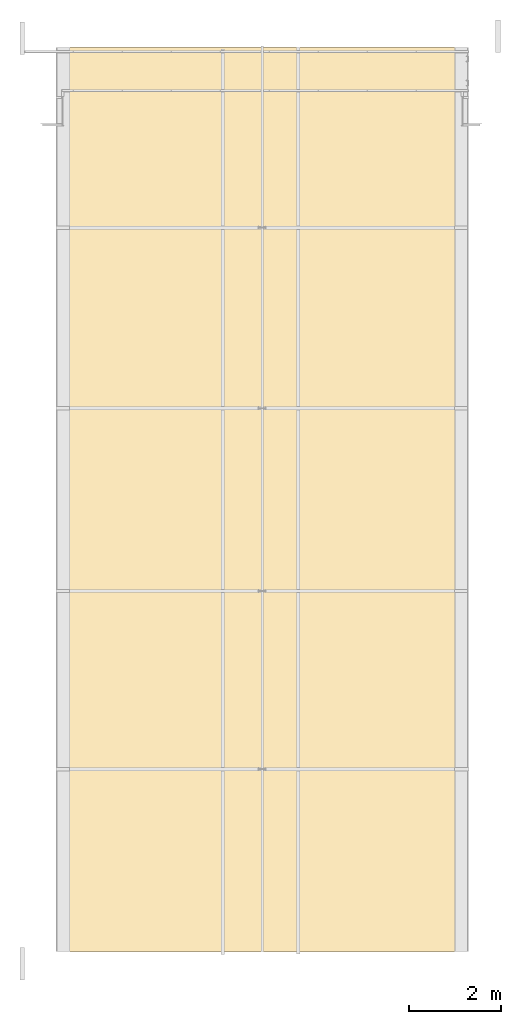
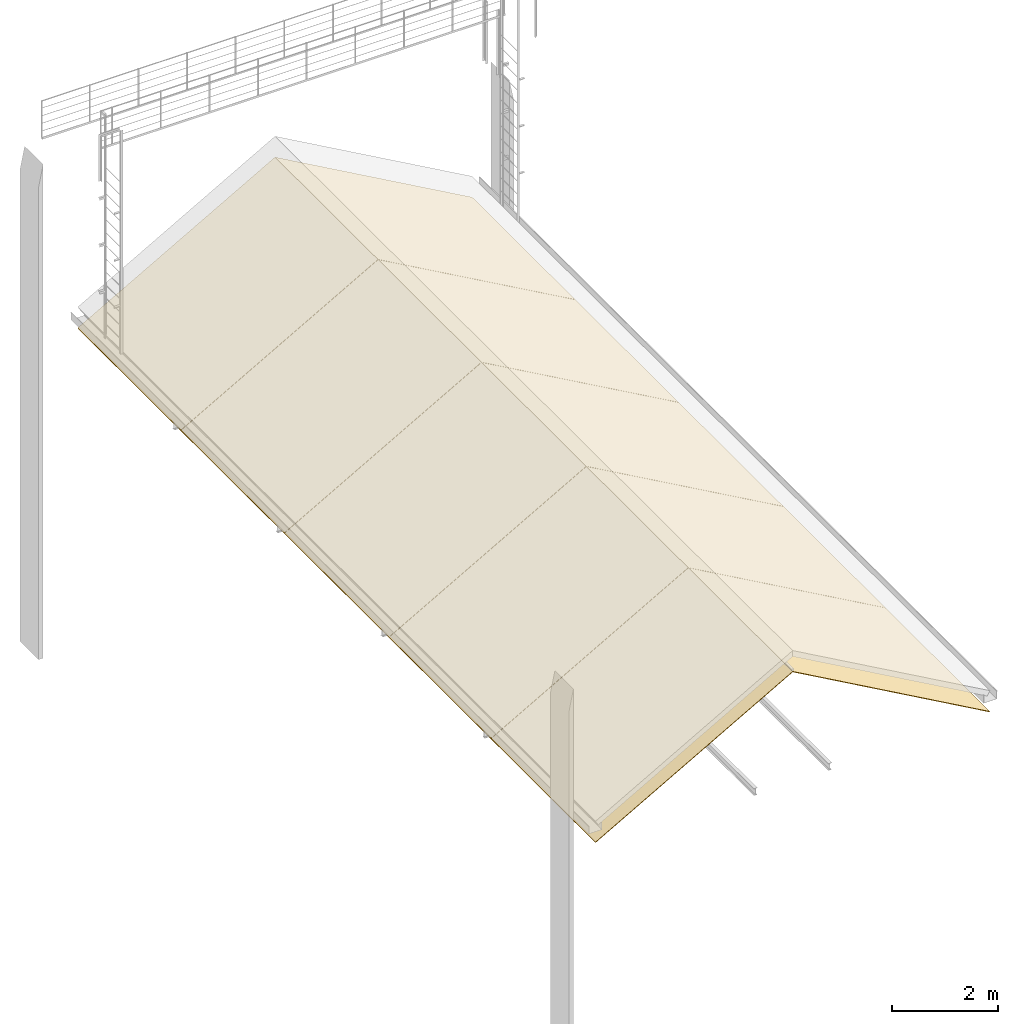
# One storey, part 8 of 10: 2 coverings.
"""IFC2X3 building model written with IfcOpenShell, lengths in metres."""

from ifc_helpers import new_model, entity, si_unit, converted_unit, derived_unit, direction, frame, origin, place, context, subcontext, project, spatial, faceted_brep, material, layer, layer_set, layer_usage, type_object, element, save


model = new_model("IFC2X3")

# Units and contexts
model_context = context("Model", 3, precision=1e-05, world=origin(), true_north=direction((6.12303176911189e-17, 1.0)))
body_context = subcontext(model_context, "Body", "Model", "MODEL_VIEW")
ifc_project = project(units=[si_unit("LENGTHUNIT", "METRE"), si_unit("AREAUNIT", "SQUARE_METRE"), si_unit("VOLUMEUNIT", "CUBIC_METRE"), converted_unit("PLANEANGLEUNIT", "DEGREE", entity("IfcRatioMeasure", 0.0174532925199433), si_unit("PLANEANGLEUNIT", "RADIAN"), dimensions=[0, 0, 0, 0, 0, 0, 0]), si_unit("MASSUNIT", "GRAM", prefix="KILO"), derived_unit("MASSDENSITYUNIT", [(si_unit("MASSUNIT", "GRAM", prefix="KILO"), 1), (si_unit("LENGTHUNIT", "METRE"), -3)]), derived_unit("MOMENTOFINERTIAUNIT", [(si_unit("LENGTHUNIT", "METRE"), 4)]), si_unit("TIMEUNIT", "SECOND"), si_unit("FREQUENCYUNIT", "HERTZ"), si_unit("THERMODYNAMICTEMPERATUREUNIT", "DEGREE_CELSIUS"), derived_unit("THERMALTRANSMITTANCEUNIT", [(si_unit("MASSUNIT", "GRAM", prefix="KILO"), 1), (si_unit("THERMODYNAMICTEMPERATUREUNIT", "KELVIN"), -1), (si_unit("TIMEUNIT", "SECOND"), -3)]), derived_unit("VOLUMETRICFLOWRATEUNIT", [(si_unit("LENGTHUNIT", "METRE"), 3), (si_unit("TIMEUNIT", "SECOND"), -1)]), si_unit("ELECTRICCURRENTUNIT", "AMPERE"), si_unit("ELECTRICVOLTAGEUNIT", "VOLT"), si_unit("POWERUNIT", "WATT"), si_unit("FORCEUNIT", "NEWTON", prefix="KILO"), si_unit("ILLUMINANCEUNIT", "LUX"), si_unit("LUMINOUSFLUXUNIT", "LUMEN"), si_unit("LUMINOUSINTENSITYUNIT", "CANDELA"), derived_unit("USERDEFINED", [(si_unit("MASSUNIT", "GRAM", prefix="KILO"), -1), (si_unit("LENGTHUNIT", "METRE"), -2), (si_unit("TIMEUNIT", "SECOND"), 3), (si_unit("LUMINOUSFLUXUNIT", "LUMEN"), 1)]), derived_unit("LINEARVELOCITYUNIT", [(si_unit("LENGTHUNIT", "METRE"), 1), (si_unit("TIMEUNIT", "SECOND"), -1)]), si_unit("PRESSUREUNIT", "PASCAL"), derived_unit("USERDEFINED", [(si_unit("LENGTHUNIT", "METRE"), -2), (si_unit("MASSUNIT", "GRAM", prefix="KILO"), 1), (si_unit("TIMEUNIT", "SECOND"), -2)]), derived_unit("LINEARFORCEUNIT", [(si_unit("MASSUNIT", "GRAM", prefix="KILO"), 1), (si_unit("LENGTHUNIT", "METRE"), 1), (si_unit("TIMEUNIT", "SECOND"), -2), (si_unit("LENGTHUNIT", "METRE"), -1)]), derived_unit("PLANARFORCEUNIT", [(si_unit("MASSUNIT", "GRAM", prefix="KILO"), 1), (si_unit("LENGTHUNIT", "METRE"), 1), (si_unit("TIMEUNIT", "SECOND"), -2), (si_unit("LENGTHUNIT", "METRE"), -2)])], contexts=[model_context])

# Site, building, storey
site_placement = place(None, origin())
site = spatial("IfcSite", under=ifc_project, at=site_placement, Name="Superficie", CompositionType="ELEMENT")
building_placement = place(site_placement, origin())
building = spatial("IfcBuilding", under=site, at=building_placement, Name="Telegestiones", CompositionType="ELEMENT")
storey_placement = place(building_placement, frame((0.0, 0.0, 13.23)))
storey = spatial("IfcBuildingStorey", under=building, at=storey_placement, Name="Nivel 3_SUP", CompositionType="ELEMENT", Elevation=13.23)

# Coverings
ifc_material = material(Name="Roble, blanco")
ifc_layer = layer(ifc_material, 0.013)
ifc_layer_set = layer_set([ifc_layer], Name="Techo compuesto:ARQ-CL-Mad-Eucaliptus")
ifc_layer_usage_1 = layer_usage(ifc_layer_set, "AXIS3", "POSITIVE", 0.0)
covering_type_1 = type_object("IfcCoveringType", Name="Techo compuesto:ARQ-CL-Mad-Eucaliptus", PredefinedType="CEILING")
covering_1_placement = place(storey_placement, frame((6.19348373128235, -5.80636712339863, -0.0920000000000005)))
element("IfcCovering", 1, at=covering_1_placement, inside=storey, type_object=covering_type_1, material=ifc_layer_usage_1, Name="Techo compuesto:ARQ-CL-Mad-Eucaliptus", ObjectType="Techo compuesto:ARQ-CL-Mad-Eucaliptus", PredefinedType="CEILING", context=body_context, shape_type="Brep", body=[
    faceted_brep([(0.0, 7.79282435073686, 0.01493147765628), (0.0, 3.94612435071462, 0.01493147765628), (4.30000005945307, 3.9461243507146, 2.44443151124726), (4.30000005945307, 7.79282435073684, 2.44443151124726), (0.0, 7.79282435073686, 0.0), (0.0, 3.94612435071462, 0.0), (4.30000005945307, 3.9461243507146, 2.42950003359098), (4.30000005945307, 7.79282435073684, 2.42950003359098)], [[[0, 1, 2, 3]], [[1, 0, 4, 5]], [[2, 1, 5, 6]], [[3, 2, 6, 7]], [[0, 3, 7, 4]], [[4, 7, 6, 5]]]),
    faceted_brep([(4.30000005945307, 3.93982435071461, 2.42950003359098), (4.30000005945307, 0.0, 2.42950003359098), (0.0, 0.0, 0.0), (0.0, 3.93982435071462, 0.0), (4.30000005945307, 0.0, 2.44443151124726), (0.0, 0.0, 0.01493147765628), (4.30000005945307, 3.93982435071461, 2.44443151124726), (0.0, 3.93982435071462, 0.01493147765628)], [[[0, 1, 2, 3]], [[4, 5, 2, 1]], [[6, 4, 1, 0]], [[7, 6, 0, 3]], [[5, 7, 3, 2]], [[6, 7, 5, 4]]]),
    faceted_brep([(0.0, 15.6611243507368, 0.01493147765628), (0.0, 19.5499743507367, 0.01493147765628), (0.0, 19.5499743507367, 0.0), (0.0, 15.6611243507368, 0.0), (4.30000005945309, 19.5499743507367, 2.44443151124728), (4.30000005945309, 19.5499743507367, 2.429500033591), (4.30000005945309, 15.6611243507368, 2.44443151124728), (4.30000005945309, 15.6611243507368, 2.429500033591)], [[[0, 1, 2, 3]], [[1, 4, 5, 2]], [[6, 0, 3, 7]], [[4, 6, 7, 5]], [[2, 5, 7, 3]], [[1, 0, 6, 4]]]),
    faceted_brep([(0.0, 11.7541243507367, 0.01493147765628), (0.0, 15.6548243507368, 0.01493147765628), (0.0, 15.6548243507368, 0.0), (0.0, 11.7541243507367, 0.0), (4.30000005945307, 11.7541243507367, 2.44443151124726), (4.30000005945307, 11.7541243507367, 2.42950003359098), (4.30000005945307, 15.6548243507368, 2.44443151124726), (4.30000005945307, 15.6548243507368, 2.42950003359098)], [[[0, 1, 2, 3]], [[4, 0, 3, 5]], [[6, 4, 5, 7]], [[1, 6, 7, 2]], [[2, 7, 5, 3]], [[1, 0, 4, 6]]]),
    faceted_brep([(0.0, 7.79912435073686, 0.01493147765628), (0.0, 11.7478243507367, 0.01493147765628), (0.0, 11.7478243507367, 0.0), (0.0, 7.79912435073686, 0.0), (4.30000005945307, 7.79912435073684, 2.44443151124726), (4.30000005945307, 7.79912435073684, 2.42950003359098), (4.30000005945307, 11.7478243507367, 2.44443151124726), (4.30000005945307, 11.7478243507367, 2.42950003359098)], [[[0, 1, 2, 3]], [[4, 0, 3, 5]], [[6, 4, 5, 7]], [[1, 6, 7, 2]], [[2, 7, 5, 3]], [[1, 0, 4, 6]]]),
])
ifc_layer_usage_2 = layer_usage(ifc_layer_set, "AXIS3", "POSITIVE", 0.0)
covering_type_2 = type_object("IfcCoveringType", Name="Techo compuesto:ARQ-CL-Mad-Eucaliptus", PredefinedType="CEILING")
covering_2_placement = place(storey_placement, frame((10.4934837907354, -5.80636712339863, -0.0920000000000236)))
element("IfcCovering", 2, at=covering_2_placement, inside=storey, type_object=covering_type_2, material=ifc_layer_usage_2, Name="Techo compuesto:ARQ-CL-Mad-Eucaliptus", ObjectType="Techo compuesto:ARQ-CL-Mad-Eucaliptus", PredefinedType="CEILING", context=body_context, shape_type="Brep", body=[
    faceted_brep([(4.30000005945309, 19.5499743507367, 0.01493147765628), (0.0, 19.5499743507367, 2.44443151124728), (0.0, 15.6611243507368, 2.44443151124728), (4.30000005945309, 15.6611243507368, 0.01493147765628), (4.30000005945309, 15.6611243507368, 0.0), (4.30000005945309, 19.5499743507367, 0.0), (0.0, 19.5499743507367, 2.429500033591), (0.0, 15.6611243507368, 2.429500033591)], [[[0, 1, 2, 3]], [[0, 3, 4, 5]], [[1, 0, 5, 6]], [[3, 2, 7, 4]], [[2, 1, 6, 7]], [[5, 4, 7, 6]]]),
    faceted_brep([(0.0, 3.93982435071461, 2.42950003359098), (4.30000005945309, 3.93982435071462, 0.0), (4.30000005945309, 0.0, 0.0), (0.0, 0.0, 2.42950003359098), (4.30000005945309, 0.0, 0.01493147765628), (0.0, 0.0, 2.44443151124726), (0.0, 3.93982435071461, 2.44443151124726), (4.30000005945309, 3.93982435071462, 0.01493147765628)], [[[0, 1, 2, 3]], [[4, 5, 3, 2]], [[5, 6, 0, 3]], [[6, 7, 1, 0]], [[7, 4, 2, 1]], [[6, 5, 4, 7]]]),
    faceted_brep([(4.30000005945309, 15.6548243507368, 0.01493147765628), (4.30000005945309, 11.7541243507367, 0.01493147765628), (4.30000005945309, 11.7541243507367, 0.0), (4.30000005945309, 15.6548243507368, 0.0), (0.0, 11.7541243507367, 2.44443151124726), (0.0, 11.7541243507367, 2.42950003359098), (0.0, 15.6548243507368, 2.44443151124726), (0.0, 15.6548243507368, 2.42950003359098)], [[[0, 1, 2, 3]], [[1, 4, 5, 2]], [[4, 6, 7, 5]], [[6, 0, 3, 7]], [[3, 2, 5, 7]], [[0, 6, 4, 1]]]),
    faceted_brep([(4.30000005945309, 11.7478243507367, 0.01493147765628), (4.30000005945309, 7.79912435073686, 0.01493147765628), (4.30000005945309, 7.79912435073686, 0.0), (4.30000005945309, 11.7478243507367, 0.0), (0.0, 7.79912435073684, 2.44443151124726), (0.0, 7.79912435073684, 2.42950003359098), (0.0, 11.7478243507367, 2.44443151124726), (0.0, 11.7478243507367, 2.42950003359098)], [[[0, 1, 2, 3]], [[1, 4, 5, 2]], [[4, 6, 7, 5]], [[6, 0, 3, 7]], [[3, 2, 5, 7]], [[0, 6, 4, 1]]]),
    faceted_brep([(4.30000005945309, 7.79282435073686, 0.01493147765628), (4.30000005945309, 3.94612435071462, 0.01493147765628), (4.30000005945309, 3.94612435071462, 0.0), (4.30000005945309, 7.79282435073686, 0.0), (0.0, 3.94612435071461, 2.44443151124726), (0.0, 3.94612435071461, 2.42950003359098), (0.0, 7.79282435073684, 2.44443151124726), (0.0, 7.79282435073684, 2.42950003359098)], [[[0, 1, 2, 3]], [[1, 4, 5, 2]], [[4, 6, 7, 5]], [[6, 0, 3, 7]], [[3, 2, 5, 7]], [[0, 6, 4, 1]]]),
])

save(model, "model.ifc")
